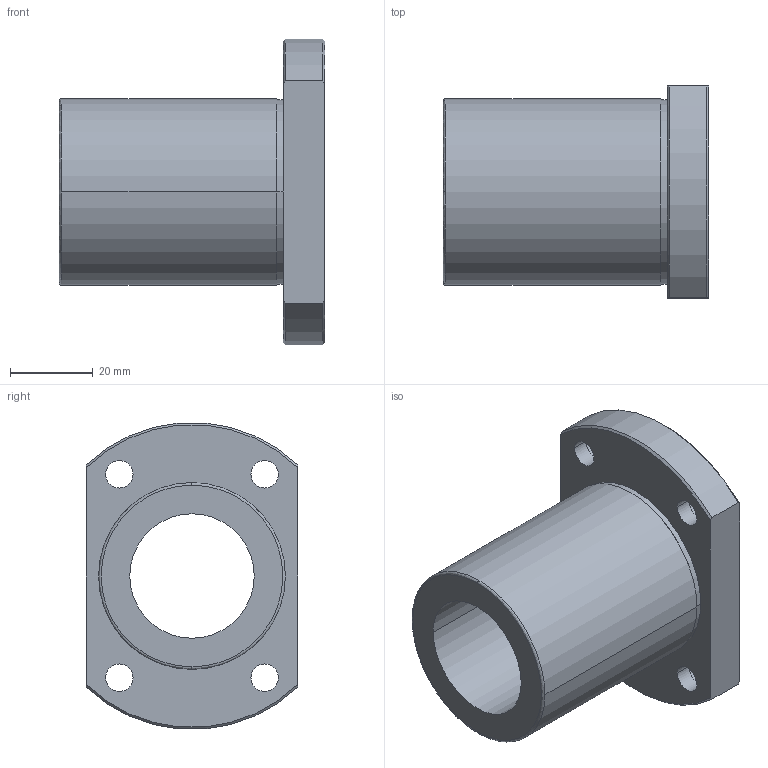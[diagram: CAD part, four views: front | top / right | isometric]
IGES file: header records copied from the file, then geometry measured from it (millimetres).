
Start section: 3D InterOp IGES (Version 21 0 1), Spatial Corp. Copyright (c) 1999-2007.
Global section: file name: NFEO-30VUU.igs; native system: Spatial Corp.; preprocessor: 3D InterOp GENERIC/IGES 3.0; author: Noname; organization: Noname; date: 20220307.120552; units: millimetre
Bounding box: 64 x 51 x 73.74 mm (x, y, z)
Surface area: 22218.7 mm2 (no closed solid volume)
Topology: 0 solids, 0 shells, 40 faces, 194 edges, 194 vertices
Faces by surface type: revolution 30, extrusion 10
